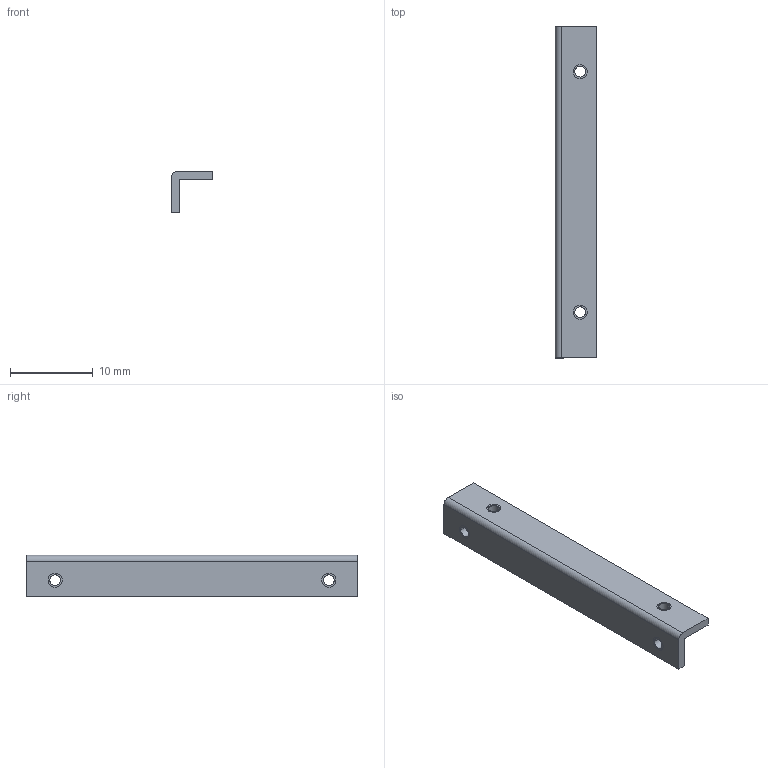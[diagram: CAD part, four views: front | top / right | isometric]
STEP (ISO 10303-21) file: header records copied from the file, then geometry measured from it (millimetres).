
FILE_DESCRIPTION((''),'2;1');
FILE_NAME('SURFACE-CONNECTOR','2023-06-07T15:01:30',('lamadaemon'),(''),'CREO PARAMETRIC BY PTC INC, 2022073','CREO PARAMETRIC BY PTC INC, 2022073','');
FILE_SCHEMA(('CONFIG_CONTROL_DESIGN'));
Length unit declared in the file: millimetre
Products named in the file (1): SURFACE-CONNECTOR
Bounding box: 5 x 40 x 5 mm (x, y, z)
Volume: 350.5 mm3; surface area: 829 mm2
Topology: 1 solids, 5 shells, 26 faces, 71 edges, 48 vertices
Faces by surface type: cylinder 17, plane 9
Entity records: 898 total; most frequent: DIRECTION 161, CARTESIAN_POINT 146, ORIENTED_EDGE 126, EDGE_CURVE 71, AXIS2_PLACEMENT_3D 63, VERTEX_POINT 48, CIRCLE 36, VECTOR 35
